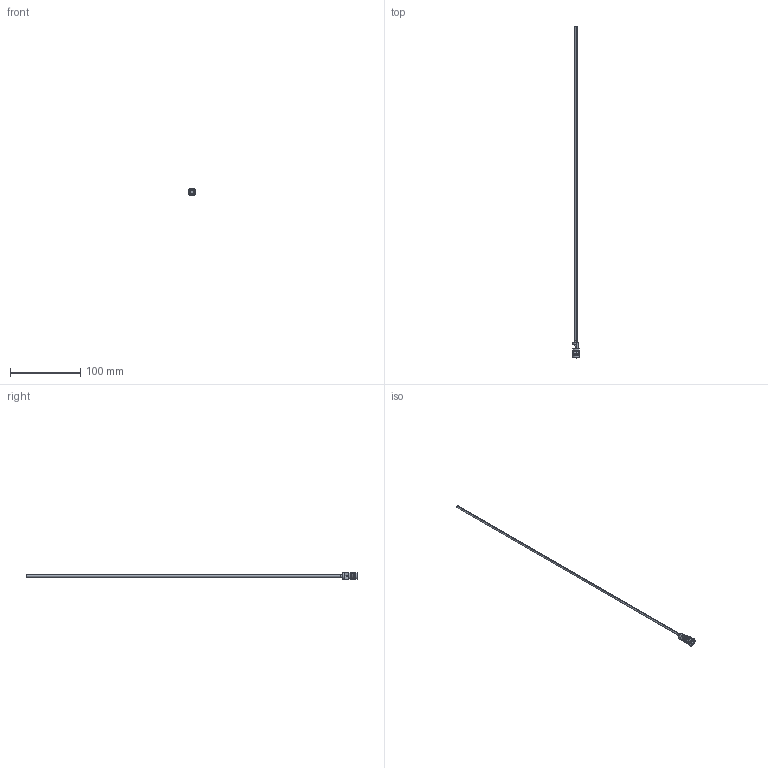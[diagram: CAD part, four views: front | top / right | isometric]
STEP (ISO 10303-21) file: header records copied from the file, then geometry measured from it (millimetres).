
FILE_DESCRIPTION (( 'STEP AP203' ), '1' );
FILE_NAME ('RF-10Fx450-3.STEP', '2015-11-19T16:08:46', ( 'Balzi' ), ( '' ), 'SwSTEP 2.0', 'SolidWorks 2015', '' );
FILE_SCHEMA (( 'CONFIG_CONTROL_DESIGN' ));
Length unit declared in the file: millimetre
Products named in the file (1): RF-10Fx450-3
Bounding box: 11.3 x 472.5 x 11.3 mm (x, y, z)
Volume: 2219 mm3; surface area: 9059.1 mm2
Topology: 1 solids, 1 shells, 71 faces, 164 edges, 102 vertices
Faces by surface type: plane 26, cylinder 25, cone 12, torus 8
Entity records: 2114 total; most frequent: DIRECTION 385, CARTESIAN_POINT 357, ORIENTED_EDGE 328, EDGE_CURVE 164, AXIS2_PLACEMENT_3D 154, VERTEX_POINT 102, CIRCLE 82, EDGE_LOOP 80
